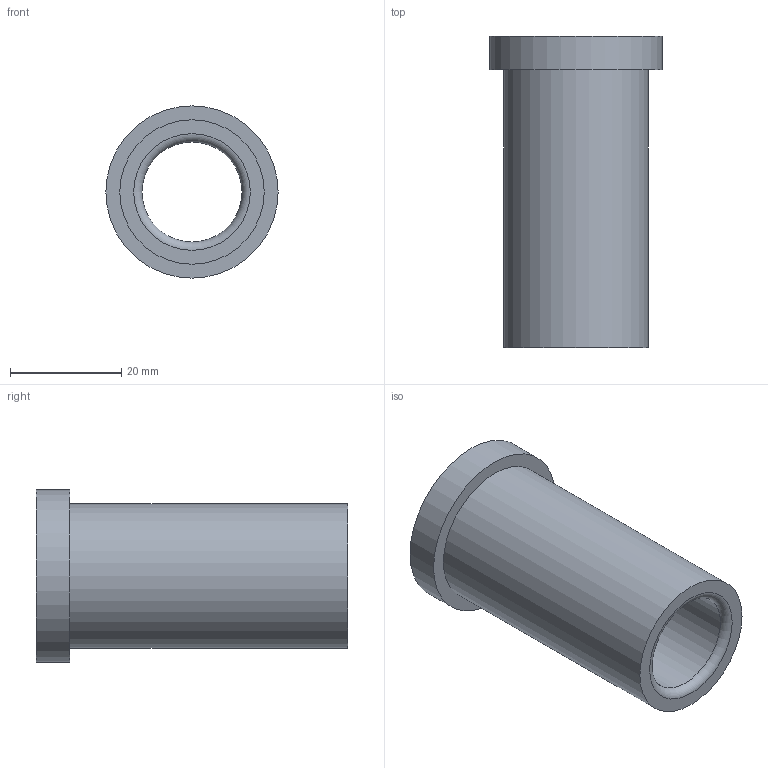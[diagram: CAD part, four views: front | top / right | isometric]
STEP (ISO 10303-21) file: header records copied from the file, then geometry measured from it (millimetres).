
FILE_DESCRIPTION(/* description */ ('STEP AP214'),/* implementation_level */ '2;1');
FILE_NAME(/* name */ '03_12_17847',/* time_stamp */ '2023-06-15T11:35:30+02:00',/* author */ ('License CC BY-ND 4.0'),/* organization */ ('CADENAS'),/* preprocessor_version */ 'ST-DEVELOPER v19.3',/* originating_system */ 'PARTsolutions',/* authorisation */ ' ');
FILE_SCHEMA (('AUTOMOTIVE_DESIGN {1 0 10303 214 3 1 1}'));
Length unit declared in the file: millimetre
Products named in the file (1): VA_Bushing_17847
Bounding box: 31 x 56 x 31 mm (x, y, z)
Volume: 16574.1 mm3; surface area: 8784.8 mm2
Topology: 1 solids, 1 shells, 10 faces, 16 edges, 10 vertices
Faces by surface type: cylinder 4, plane 4, torus 2
Full cylindrical faces by diameter (mm): 18 x1, 18.6 x1, 26 x1, 31 x1
Entity records: 302 total; most frequent: DIRECTION 42, CARTESIAN_POINT 31, AXIS2_PLACEMENT_3D 21, ORIENTED_EDGE 20, EDGE_LOOP 20, FACE_BOUND 20, EDGE_CURVE 10, VERTEX_POINT 10
